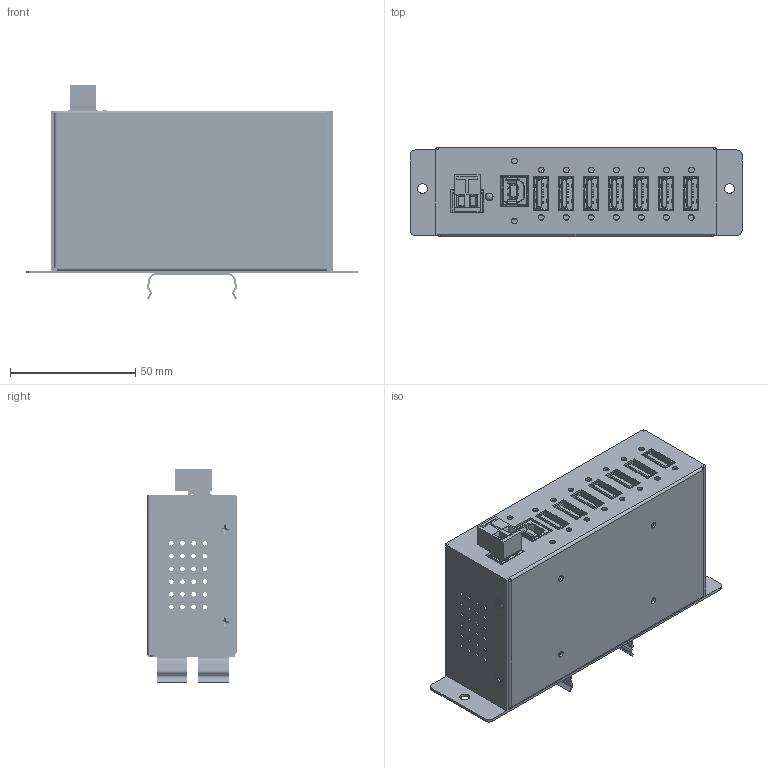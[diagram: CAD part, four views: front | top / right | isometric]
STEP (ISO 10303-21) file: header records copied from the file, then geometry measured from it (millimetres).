
FILE_DESCRIPTION(/* description */ (''),/* implementation_level */ '2;1');
FILE_NAME(/* name */ 'C:/Users/Leo/Desktop/AA CoolGear CADs/USBG-7du2i/USBG-7du2i Model3D LPV1.step',/* time_stamp */ '2021-06-07T09:55:27-04:00',/* author */ (''),/* organization */ (''),/* preprocessor_version */ 'ST-DEVELOPER v18.1',/* originating_system */ 'Autodesk Translation Framework v10.9.0.1377',/* authorisation */ '');
FILE_SCHEMA (('AUTOMOTIVE_DESIGN { 1 0 10303 214 3 1 1 }'));
Products named in the file (4): USBG-7du2i; Connector green phoenix 2pines male 5.08 v6; DinRClip 35mm rail 25mm holes v3; Component45
Assembly tree (4 placements, depth 2):
  USBG-7du2i
    Connector green phoenix 2pines male 5.08 v6
    DinRClip 35mm rail 25mm holes v3  x2
    Component45
Bounding box: 132.73 x 35.75 x 85.84 mm (x, y, z)
Volume: 50036.9 mm3; surface area: 88964 mm2
Topology: 4 solids, 72 shells, 8063 faces, 23456 edges, 15123 vertices
Faces by surface type: plane 6061, cylinder 1800, bspline 125, cone 74, sphere 3
Full cylindrical faces by diameter (mm): 1.6 x2, 1.8 x48, 2.271 x16, 2.35 x24, 2.529 x8, 2.89 x1, 3 x36, 3.1 x1, 3.2 x4, 3.565 x4, 3.86 x2, 3.9 x2, 4.2 x4
Entity records: 273715 total; most frequent: CARTESIAN_POINT 59250, ORIENTED_EDGE 46638, DIRECTION 42183, EDGE_CURVE 23319, LINE 19135, VECTOR 19135, VERTEX_POINT 15057, AXIS2_PLACEMENT_3D 11524
